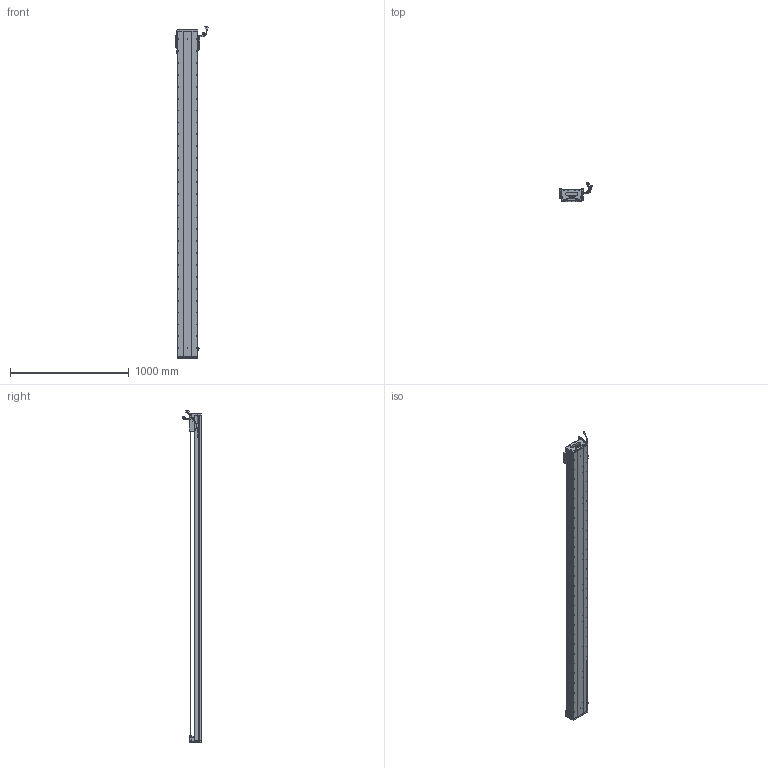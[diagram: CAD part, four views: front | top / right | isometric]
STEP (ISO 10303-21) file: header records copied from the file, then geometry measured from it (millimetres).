
FILE_DESCRIPTION (( 'STEP AP203' ), '1' );
FILE_NAME ('Z1-RY170D-1-L500-B-K.SLDASM_2550.step', '2021-05-17T08:56:02', ( '盈信电脑' ), ( '东莞市道滘镇水果街19号' ), 'SwSTEP 2.0', 'SolidWorks 2016', '' );
FILE_SCHEMA (( 'CONFIG_CONTROL_DESIGN' ));
Length unit declared in the file: millimetre
Products named in the file (36): 170-Z-臏賑輸盄裔(21遴); 140蚥薯蝶輸; Z-170詩湍傷裔啣; SEAL; SCREW-M1.6-1; Z1-RY170臏賑輸(21遴); HARNESS-Part-1; LABEL; SCALE-Part-1; Z-RY170詩湍奻揤裔; 覜茼ん672; COVER-Part-1; SCREW-M1.6; 080黍杅芛假蚾釱21遴; HOLDER0; LABEL-Part-1; SCREW-M1.6-3; SCREW-M1.7-1; 140雄赽晤鎢ん堤盄; SCREW-M1.6-2; SEAL-Part-1; RY170直线电机感应器672光电感应片; HARNESS; PSLH080_PSLF2; Z1-RY170-L500耀郪菁釱_2550; 榋妏寠巭燃_暯_M2_2; Z-RY170詩湍狟揤裔; COVER; Z1-RY170D-1-L500-B-K.SLDASM_2550; SCREW-M1.7; HARNESS-Part-2; Z1-RY170-L500詩湍145mm遵_2550; SCALE-Part-2; PBU_SHEET; SCALE; SHIELDPLATE
Assembly tree (41 placements, depth 4):
  Z1-RY170D-1-L500-B-K.SLDASM_2550
    Z1-RY170-L500耀郪菁釱_2550
    RY170直线电机感应器672光电感应片
    Z1-RY170臏賑輸(21遴)
    覜茼ん672  x3
    PSLH080_PSLF2
      SCALE
        SCALE-Part-1
        SCALE-Part-2
      HARNESS
        HARNESS-Part-1
        HARNESS-Part-2
      LABEL
        LABEL-Part-1
      COVER
        COVER-Part-1
      SEAL
        SEAL-Part-1
      榋妏寠巭燃_暯_M2_2
      SHIELDPLATE
      SCREW-M1.7
      SCREW-M1.7-1
      PBU_SHEET
      SCREW-M1.6
      SCREW-M1.6-1
      SCREW-M1.6-2
      SCREW-M1.6-3
      HOLDER0
    080黍杅芛假蚾釱21遴
    Z1-RY170-L500詩湍145mm遵_2550
    Z-170詩湍傷裔啣  x2
    Z-RY170詩湍奻揤裔  x2
    Z-RY170詩湍狟揤裔  x2
    140蚥薯蝶輸  x2
    170-Z-臏賑輸盄裔(21遴)
    140雄赽晤鎢ん堤盄
Bounding box: 275.29 x 158.11 x 2793.72 mm (x, y, z)
Volume: 13291023 mm3; surface area: 3325309.9 mm2
Topology: 36 solids, 36 shells, 4064 faces, 11319 edges, 7069 vertices
Faces by surface type: cylinder 2062, plane 1308, cone 572, torus 69, bspline 53
Entity records: 128771 total; most frequent: CARTESIAN_POINT 36522, ORIENTED_EDGE 19066, DIRECTION 17605, EDGE_CURVE 9533, AXIS2_PLACEMENT_3D 6474, VERTEX_POINT 6187, LINE 4657, VECTOR 4657
